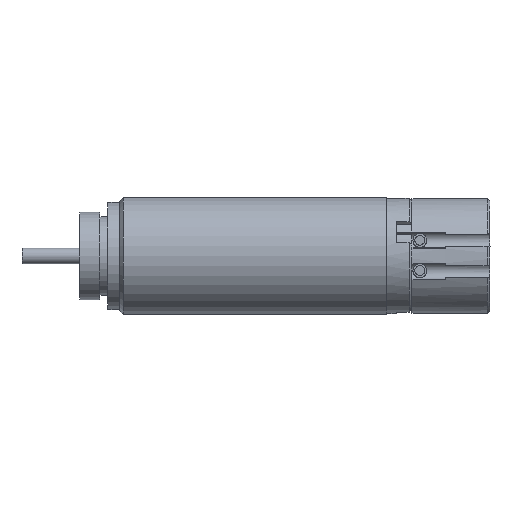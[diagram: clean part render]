
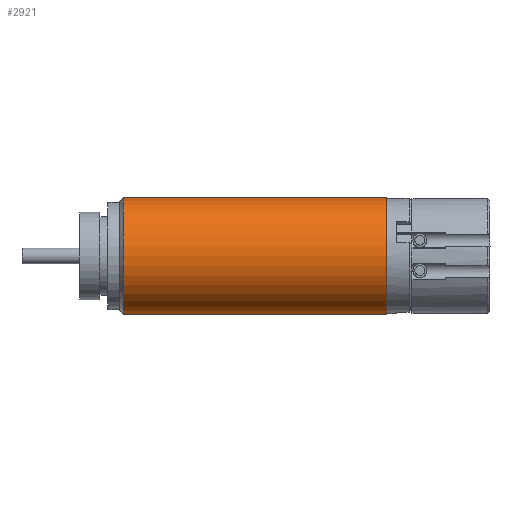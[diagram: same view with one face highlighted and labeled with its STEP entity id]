
A CAD part, top view. The second image highlights one B-rep face of the part: STEP entity #2921.
In plain terms, the highlighted cylindrical face has radius 3 mm (diameter 6 mm), a partial arc.
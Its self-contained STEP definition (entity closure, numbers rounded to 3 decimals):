
#1444=CARTESIAN_POINT('',(0.2,0.,0.));
#1445=DIRECTION('',(-1.,0.,0.));
#1446=DIRECTION('',(0.,-1.,0.));
#1447=AXIS2_PLACEMENT_3D('',#1444,#1445,#1446);
#1452=CARTESIAN_POINT('',(13.7,0.,0.));
#1453=DIRECTION('',(1.,0.,0.));
#1454=DIRECTION('',(0.,1.,0.));
#1455=AXIS2_PLACEMENT_3D('',#1452,#1453,#1454);
#1498=DIRECTION('',(-1.,0.,0.));
#1499=VECTOR('',#1498,13.5);
#1500=CARTESIAN_POINT('',(13.7,-3.,0.));
#1501=LINE('',#1500,#1499);
#1513=DIRECTION('',(-1.,0.,0.));
#1514=VECTOR('',#1513,13.5);
#1515=CARTESIAN_POINT('',(13.7,3.,0.));
#1516=LINE('',#1515,#1514);
#1708=CARTESIAN_POINT('',(13.7,3.,0.));
#1709=CARTESIAN_POINT('',(13.7,-3.,0.));
#1710=VERTEX_POINT('',#1708);
#1711=VERTEX_POINT('',#1709);
#1774=CARTESIAN_POINT('',(0.2,3.,0.));
#1775=CARTESIAN_POINT('',(0.2,-3.,0.));
#1776=VERTEX_POINT('',#1774);
#1777=VERTEX_POINT('',#1775);
#2907=CARTESIAN_POINT('',(-3.048,0.,0.));
#2908=DIRECTION('',(1.,0.,0.));
#2909=DIRECTION('',(0.,-1.,0.));
#2910=AXIS2_PLACEMENT_3D('',#2907,#2908,#2909);
#2911=CYLINDRICAL_SURFACE('',#2910,3.);
#2913=ORIENTED_EDGE('',*,*,#2912,.T.);
#2915=ORIENTED_EDGE('',*,*,#2914,.F.);
#2916=ORIENTED_EDGE('',*,*,#2896,.T.);
#2918=ORIENTED_EDGE('',*,*,#2917,.T.);
#2919=EDGE_LOOP('',(#2913,#2915,#2916,#2918));
#2920=FACE_OUTER_BOUND('',#2919,.F.);
#2921=ADVANCED_FACE('',(#2920),#2911,.T.);
#1448=CIRCLE('',#1447,3.);
#1456=CIRCLE('',#1455,3.);
#2896=EDGE_CURVE('',#1710,#1711,#1456,.T.);
#2912=EDGE_CURVE('',#1777,#1776,#1448,.T.);
#2914=EDGE_CURVE('',#1710,#1776,#1516,.T.);
#2917=EDGE_CURVE('',#1711,#1777,#1501,.T.);
